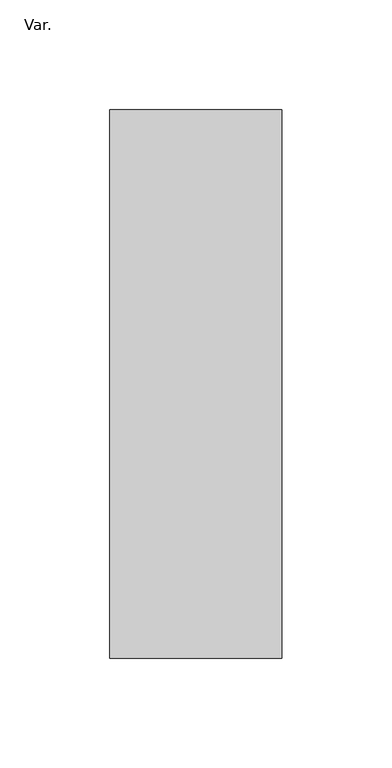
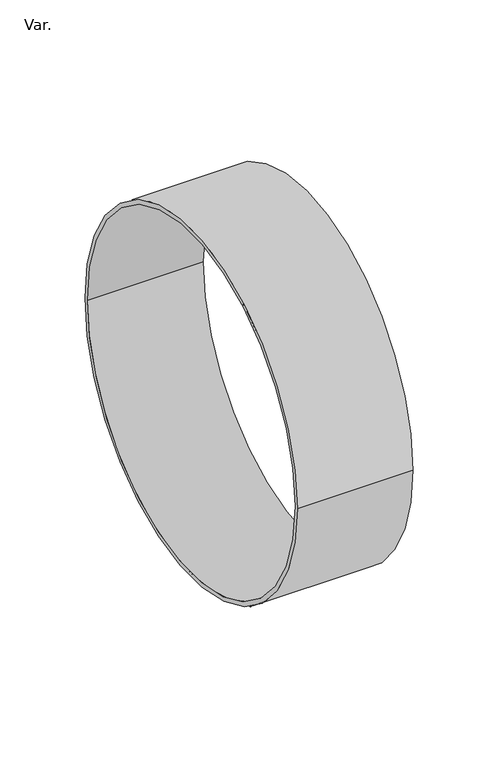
"""IFC4 building model written with IfcOpenShell, lengths in millimetres: pipe fitting geometry, AmancoWavin_ConexõesdeTubos_EsgotoZNãoUsarEsgotoCaixaSifProlongamento : Var.."""

from ifc_helpers import new_model, si_unit, point, frame, origin, origin_2d, place, context, project, spatial, circle_curve, trimmed, segment, composite_curve, outline, extrude, source, transform, mapped, element, save


def var_194fee5a(model_context):
    return source(origin(), model_context, "Body", "SweptSolid", [
        extrude(outline(composite_curve([segment(trimmed(circle_curve(origin_2d(), 125.0), [point((-125.0, 0.0))], [point((125.0, 0.0))], False, "CARTESIAN"), True, "CONTINUOUS"), segment(trimmed(circle_curve(origin_2d(), 125.0), [point((125.0, 0.0))], [point((-125.0, 0.0))], False, "CARTESIAN"), True, "CONTINUOUS")], self_intersect=False), holes=[composite_curve([segment(trimmed(circle_curve(origin_2d(), 122.0), [point((-122.0, 0.0))], [point((122.0, 0.0))], True, "CARTESIAN"), True, "CONTINUOUS"), segment(trimmed(circle_curve(origin_2d(), 122.0), [point((122.0, 0.0))], [point((-122.0, 0.0))], True, "CARTESIAN"), True, "CONTINUOUS")], self_intersect=False)]), frame((0.0, 0.0, 0.0), z_axis=(1.0, 0.0, 0.0), x_axis=(0.0, 1.0, 0.0)), (0.0, 0.0, 1.0), 78.5),
    ])


if __name__ == "__main__":
    model = new_model("IFC4")
    model_context = context("Model", 3, world=origin())
    ifc_project = project(units=[si_unit("LENGTHUNIT", "METRE", prefix="MILLI")], contexts=[model_context])
    site = spatial("IfcSite", under=ifc_project)
    building = spatial("IfcBuilding", under=site)
    placement = place(None, origin())
    var_shape = var_194fee5a(model_context)
    element("IfcPipeFitting", 1, ObjectType="AmancoWavin_ConexõesdeTubos_EsgotoZNãoUsarEsgotoCaixaSifProlongamento : Var.", at=placement, inside=building, context=model_context, shape_type="MappedRepresentation", body=[
        mapped(var_shape, transform((0.0, 0.0, 0.0), x_axis=(1.0, 0.0, 0.0), y_axis=(0.0, 1.0, 0.0), z_axis=(0.0, 0.0, 1.0))),
    ])
    save(model, "model.ifc")
